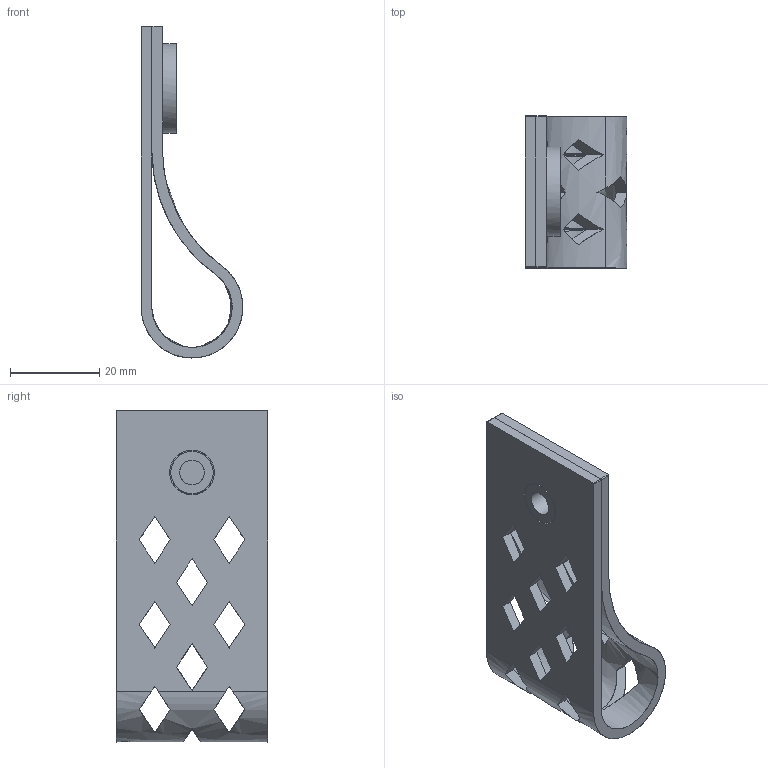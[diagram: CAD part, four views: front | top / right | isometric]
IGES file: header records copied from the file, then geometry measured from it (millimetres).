
Start section: C
Global section: file name: 8335-74.igs; native system: By Siemens PLM Incorporated; preprocessor: XPlus GENERIC/IGES 16.0.42; author: Author; organization: Title; date: 20230831.105247; units: millimetre
Bounding box: 22.8 x 34 x 74.41 mm (x, y, z)
Surface area: 12808.2 mm2 (no closed solid volume)
Topology: 0 solids, 0 shells, 87 faces, 586 edges, 586 vertices
Faces by surface type: bspline 87
